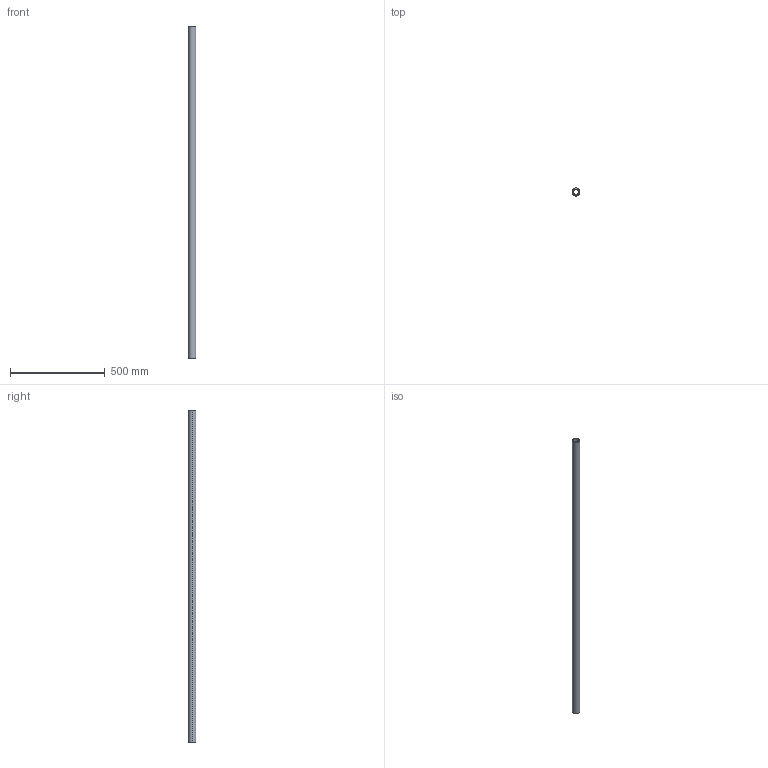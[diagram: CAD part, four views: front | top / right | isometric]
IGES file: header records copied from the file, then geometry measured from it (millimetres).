
Start section: SolidWorks IGES file using analytic representation for surfaces
Global section: file name: C:\Users\IanO\Desktop\L1771_v2\L1771.40_v2\L1771.40_v2_20230705_IGES\L1771.40-1750.igs; native system: SolidWorks 2019; preprocessor: SolidWorks 2019; author: IanO; date: 230705.160815; units: millimetre
Bounding box: 40 x 40 x 1750 mm (x, y, z)
Surface area: 375131.3 mm2 (no closed solid volume)
Topology: 0 solids, 0 shells, 6 faces, 272 edges, 272 vertices
Faces by surface type: revolution 4, bspline 2
